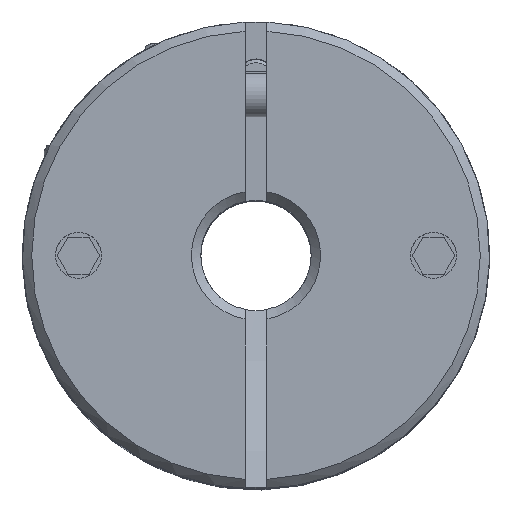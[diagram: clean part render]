
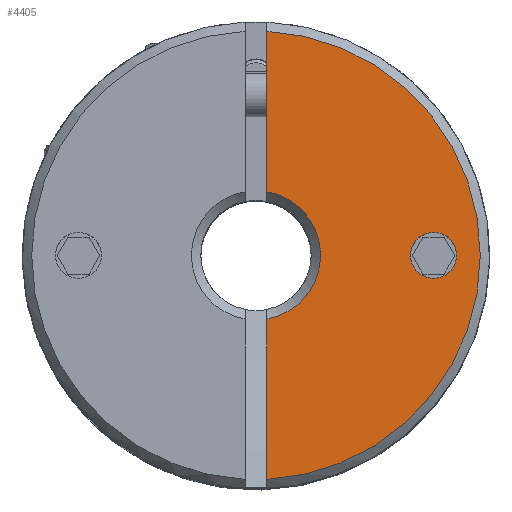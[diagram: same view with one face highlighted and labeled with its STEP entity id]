
A CAD part, top view. The second image highlights one B-rep face of the part: STEP entity #4405.
In plain terms, the highlighted planar face has unit normal (0, 0, 1) as drawn and (0, 0, -1) by its records, which use the part's own axes.
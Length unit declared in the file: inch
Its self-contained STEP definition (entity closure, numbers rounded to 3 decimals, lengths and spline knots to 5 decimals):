
#166 = LINE ( 'NONE', #5437, #6061 ) ;
#280 = EDGE_CURVE ( 'NONE', #1769, #4384, #5246, .T. ) ;
#472 = ORIENTED_EDGE ( 'NONE', *, *, #876, .T. ) ;
#487 = DIRECTION ( 'NONE',  ( 1., 0., 0. ) ) ;
#866 = DIRECTION ( 'NONE',  ( 0., 0., 1. ) ) ;
#876 = EDGE_CURVE ( 'NONE', #3685, #5514, #4326, .T. ) ;
#993 = EDGE_CURVE ( 'NONE', #5313, #3685, #166, .T. ) ;
#1017 = DIRECTION ( 'NONE',  ( 1., 0., 0. ) ) ;
#1069 = AXIS2_PLACEMENT_3D ( 'NONE', #3914, #1458, #1017 ) ;
#1270 = VECTOR ( 'NONE', #4389, 39.37008 ) ;
#1321 = ORIENTED_EDGE ( 'NONE', *, *, #6034, .T. ) ;
#1345 = EDGE_CURVE ( 'NONE', #5514, #5751, #4965, .T. ) ;
#1361 = AXIS2_PLACEMENT_3D ( 'NONE', #5968, #5465, #4539 ) ;
#1458 = DIRECTION ( 'NONE',  ( 0., 0., 1. ) ) ;
#1769 = VERTEX_POINT ( 'NONE', #5893 ) ;
#1887 = PLANE ( 'NONE',  #1069 ) ;
#1902 = FACE_OUTER_BOUND ( 'NONE', #3489, .T. ) ;
#1911 = EDGE_CURVE ( 'NONE', #4384, #1769, #3190, .T. ) ;
#2066 = CARTESIAN_POINT ( 'NONE',  ( 0.13609, -0.02345, 0. ) ) ;
#2266 = CARTESIAN_POINT ( 'NONE',  ( -0.13609, -0.02345, 0. ) ) ;
#2713 = ORIENTED_EDGE ( 'NONE', *, *, #993, .T. ) ;
#2890 = DIRECTION ( 'NONE',  ( 1., 0., 0. ) ) ;
#2931 = AXIS2_PLACEMENT_3D ( 'NONE', #6310, #5873, #487 ) ;
#3188 = AXIS2_PLACEMENT_3D ( 'NONE', #4320, #5344, #2890 ) ;
#3190 = CIRCLE ( 'NONE', #1361, 0.0492 ) ;
#3489 = EDGE_LOOP ( 'NONE', ( #4452, #1321, #2713, #472 ) ) ;
#3576 = CARTESIAN_POINT ( 'NONE',  ( 0.47943, -0.02345, 0. ) ) ;
#3685 = VERTEX_POINT ( 'NONE', #3576 ) ;
#3786 = CARTESIAN_POINT ( 'NONE',  ( 0., -0.38, 0. ) ) ;
#3914 = CARTESIAN_POINT ( 'NONE',  ( 0., 0., 0. ) ) ;
#4320 = CARTESIAN_POINT ( 'NONE',  ( 0., 0., 0. ) ) ;
#4326 = CIRCLE ( 'NONE', #2931, 0.48 ) ;
#4384 = VERTEX_POINT ( 'NONE', #5965 ) ;
#4389 = DIRECTION ( 'NONE',  ( 1., 0., 0. ) ) ;
#4405 = ADVANCED_FACE ( 'NONE', ( #5825, #1902 ), #1887, .F. ) ;
#4452 = ORIENTED_EDGE ( 'NONE', *, *, #1345, .T. ) ;
#4483 = ORIENTED_EDGE ( 'NONE', *, *, #1911, .T. ) ;
#4539 = DIRECTION ( 'NONE',  ( 1., 0., 0. ) ) ;
#4890 = CARTESIAN_POINT ( 'NONE',  ( -1.225, -0.02345, 0. ) ) ;
#4946 = DIRECTION ( 'NONE',  ( 1., 0., 0. ) ) ;
#4965 = LINE ( 'NONE', #4890, #1270 ) ;
#5053 = AXIS2_PLACEMENT_3D ( 'NONE', #3786, #866, #6263 ) ;
#5246 = CIRCLE ( 'NONE', #5053, 0.0492 ) ;
#5313 = VERTEX_POINT ( 'NONE', #2066 ) ;
#5344 = DIRECTION ( 'NONE',  ( 0., 0., 1. ) ) ;
#5369 = ORIENTED_EDGE ( 'NONE', *, *, #280, .T. ) ;
#5437 = CARTESIAN_POINT ( 'NONE',  ( -1.225, -0.02345, 0. ) ) ;
#5465 = DIRECTION ( 'NONE',  ( 0., 0., 1. ) ) ;
#5514 = VERTEX_POINT ( 'NONE', #6277 ) ;
#5625 = EDGE_LOOP ( 'NONE', ( #4483, #5369 ) ) ;
#5751 = VERTEX_POINT ( 'NONE', #2266 ) ;
#5825 = FACE_BOUND ( 'NONE', #5625, .T. ) ;
#5873 = DIRECTION ( 'NONE',  ( 0., 0., -1. ) ) ;
#5893 = CARTESIAN_POINT ( 'NONE',  ( 0.0492, -0.38, 0. ) ) ;
#5965 = CARTESIAN_POINT ( 'NONE',  ( -0.0492, -0.38, 0. ) ) ;
#5968 = CARTESIAN_POINT ( 'NONE',  ( 0., -0.38, 0. ) ) ;
#6034 = EDGE_CURVE ( 'NONE', #5751, #5313, #6217, .T. ) ;
#6061 = VECTOR ( 'NONE', #4946, 39.37008 ) ;
#6217 = CIRCLE ( 'NONE', #3188, 0.1381 ) ;
#6263 = DIRECTION ( 'NONE',  ( 1., 0., 0. ) ) ;
#6277 = CARTESIAN_POINT ( 'NONE',  ( -0.47943, -0.02345, 0. ) ) ;
#6310 = CARTESIAN_POINT ( 'NONE',  ( 0., 0., 0. ) ) ;
